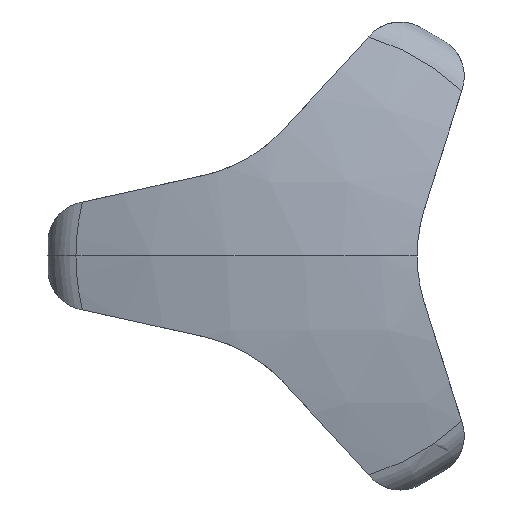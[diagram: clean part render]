
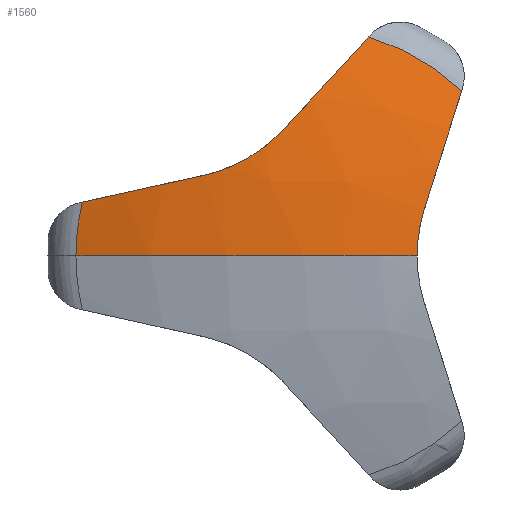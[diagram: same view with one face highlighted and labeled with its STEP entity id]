
A CAD part, left-side view. The second image highlights one B-rep face of the part: STEP entity #1560.
In plain terms, the highlighted spherical face has radius 72 mm.
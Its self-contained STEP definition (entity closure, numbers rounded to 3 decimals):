
#32 = ORIENTED_EDGE ( 'NONE', *, *, #1008, .T. ) ;
#35 = DIRECTION ( 'NONE',  ( 0., -0.676, 0.737 ) ) ;
#94 = CIRCLE ( 'NONE', #989, 72. ) ;
#98 = SPHERICAL_SURFACE ( 'NONE', #1119, 72. ) ;
#118 = DIRECTION ( 'NONE',  ( 1., 0., 0. ) ) ;
#133 = CARTESIAN_POINT ( 'NONE',  ( -29.155, -11., 0.385 ) ) ;
#148 = CARTESIAN_POINT ( 'NONE',  ( -29.133, 4.2, 10.346 ) ) ;
#149 = AXIS2_PLACEMENT_3D ( 'NONE', #847, #1391, #287 ) ;
#150 = ORIENTED_EDGE ( 'NONE', *, *, #1405, .T. ) ;
#155 = ORIENTED_EDGE ( 'NONE', *, *, #1568, .T. ) ;
#169 = CIRCLE ( 'NONE', #757, 22.235 ) ;
#191 = CARTESIAN_POINT ( 'NONE',  ( -28.901, 1.941, 12.383 ) ) ;
#213 = ORIENTED_EDGE ( 'NONE', *, *, #1118, .F. ) ;
#252 = CARTESIAN_POINT ( 'NONE',  ( -29.048, 8.275, 8.26 ) ) ;
#269 = EDGE_CURVE ( 'NONE', #913, #302, #275, .T. ) ;
#275 = CIRCLE ( 'NONE', #932, 22.235 ) ;
#287 = DIRECTION ( 'NONE',  ( 0., 0.301, -0.954 ) ) ;
#301 = AXIS2_PLACEMENT_3D ( 'NONE', #399, #764, #35 ) ;
#302 = VERTEX_POINT ( 'NONE', #1409 ) ;
#311 = DIRECTION ( 'NONE',  ( 0., 1., 0. ) ) ;
#331 = VERTEX_POINT ( 'NONE', #191 ) ;
#337 = DIRECTION ( 'NONE',  ( -1., 0., 0. ) ) ;
#348 = CARTESIAN_POINT ( 'NONE',  ( 42., 0., 0. ) ) ;
#350 = AXIS2_PLACEMENT_3D ( 'NONE', #793, #417, #1024 ) ;
#359 = DIRECTION ( 'NONE',  ( 0., 0., -1. ) ) ;
#371 = CARTESIAN_POINT ( 'NONE',  ( -29.128, -11.074, 1.532 ) ) ;
#388 = CARTESIAN_POINT ( 'NONE',  ( -29.112, 7.211, 8.674 ) ) ;
#399 = CARTESIAN_POINT ( 'NONE',  ( 42., 7.223, 6.619 ) ) ;
#406 = ORIENTED_EDGE ( 'NONE', *, *, #269, .F. ) ;
#417 = DIRECTION ( 'NONE',  ( 0., -0.216, -0.976 ) ) ;
#594 = ORIENTED_EDGE ( 'NONE', *, *, #1164, .F. ) ;
#604 = VERTEX_POINT ( 'NONE', #1497 ) ;
#617 = CARTESIAN_POINT ( 'NONE',  ( -29.155, -11., 0. ) ) ;
#623 = EDGE_CURVE ( 'NONE', #913, #331, #884, .T. ) ;
#631 = CARTESIAN_POINT ( 'NONE',  ( -29.149, 6.171, 9.156 ) ) ;
#638 = CARTESIAN_POINT ( 'NONE',  ( -26.481, -6.262, 21.335 ) ) ;
#647 = DIRECTION ( 'NONE',  ( 0., -1., 0. ) ) ;
#690 = DIRECTION ( 'NONE',  ( 0., 1., 0. ) ) ;
#732 = CIRCLE ( 'NONE', #149, 71.33 ) ;
#757 = AXIS2_PLACEMENT_3D ( 'NONE', #824, #118, #690 ) ;
#762 = CARTESIAN_POINT ( 'NONE',  ( -29.155, 4.829, 9.914 ) ) ;
#764 = DIRECTION ( 'NONE',  ( 0., -0.737, -0.676 ) ) ;
#780 = CIRCLE ( 'NONE', #988, 72. ) ;
#789 = EDGE_CURVE ( 'NONE', #331, #1315, #1077, .T. ) ;
#793 = CARTESIAN_POINT ( 'NONE',  ( 42., 2.12, 9.564 ) ) ;
#813 = CARTESIAN_POINT ( 'NONE',  ( 42., 0., 0. ) ) ;
#824 = CARTESIAN_POINT ( 'NONE',  ( -26.481, 0., 0. ) ) ;
#837 = ORIENTED_EDGE ( 'NONE', *, *, #1434, .T. ) ;
#847 = CARTESIAN_POINT ( 'NONE',  ( 42., -9.343, -2.946 ) ) ;
#855 = CARTESIAN_POINT ( 'NONE',  ( -28.901, -11.694, 4.511 ) ) ;
#867 = B_SPLINE_CURVE_WITH_KNOTS ( 'NONE', 3,
 ( #1209, #133, #1470, #371, #976, #1565, #1464, #855 ),
 .UNSPECIFIED., .F., .F.,
 ( 4, 2, 2, 4 ),
 ( 0.005, 0.006, 0.007, 0.009 ),
 .UNSPECIFIED. ) ;
#876 = DIRECTION ( 'NONE',  ( 1., 0., 0. ) ) ;
#884 = CIRCLE ( 'NONE', #301, 71.33 ) ;
#901 = CARTESIAN_POINT ( 'NONE',  ( -28.901, 9.753, 7.872 ) ) ;
#913 = VERTEX_POINT ( 'NONE', #638 ) ;
#926 = VERTEX_POINT ( 'NONE', #1500 ) ;
#932 = AXIS2_PLACEMENT_3D ( 'NONE', #1525, #876, #311 ) ;
#947 = CARTESIAN_POINT ( 'NONE',  ( -28.901, 1.941, 12.383 ) ) ;
#967 = VERTEX_POINT ( 'NONE', #1335 ) ;
#976 = CARTESIAN_POINT ( 'NONE',  ( -29.112, -11.117, 1.91 ) ) ;
#988 = AXIS2_PLACEMENT_3D ( 'NONE', #1214, #359, #337 ) ;
#989 = AXIS2_PLACEMENT_3D ( 'NONE', #813, #1132, #647 ) ;
#995 = VERTEX_POINT ( 'NONE', #1310 ) ;
#1008 = EDGE_CURVE ( 'NONE', #1315, #995, #1219, .T. ) ;
#1024 = DIRECTION ( 'NONE',  ( 0., -0.976, 0.216 ) ) ;
#1077 = B_SPLINE_CURVE_WITH_KNOTS ( 'NONE', 3,
 ( #947, #1316, #1582, #148, #762, #1495, #631, #1104, #388, #252, #1361, #1112 ),
 .UNSPECIFIED., .F., .F.,
 ( 4, 2, 2, 2, 2, 4 ),
 ( 0., 0.002, 0.005, 0.006, 0.007, 0.009 ),
 .UNSPECIFIED. ) ;
#1099 = EDGE_LOOP ( 'NONE', ( #594, #150, #837, #155, #406, #1510, #1529, #32, #213 ) ) ;
#1104 = CARTESIAN_POINT ( 'NONE',  ( -29.128, 6.861, 8.825 ) ) ;
#1112 = CARTESIAN_POINT ( 'NONE',  ( -28.901, 9.753, 7.872 ) ) ;
#1118 = EDGE_CURVE ( 'NONE', #604, #995, #169, .T. ) ;
#1119 = AXIS2_PLACEMENT_3D ( 'NONE', #348, #1328, #1256 ) ;
#1132 = DIRECTION ( 'NONE',  ( 0., 0., 1. ) ) ;
#1164 = EDGE_CURVE ( 'NONE', #926, #604, #780, .T. ) ;
#1196 = FACE_OUTER_BOUND ( 'NONE', #1099, .T. ) ;
#1209 = CARTESIAN_POINT ( 'NONE',  ( -29.155, -11., 0. ) ) ;
#1214 = CARTESIAN_POINT ( 'NONE',  ( 42., 0., 0. ) ) ;
#1219 = CIRCLE ( 'NONE', #350, 71.33 ) ;
#1256 = DIRECTION ( 'NONE',  ( 0., 1., 0. ) ) ;
#1261 = VERTEX_POINT ( 'NONE', #617 ) ;
#1310 = CARTESIAN_POINT ( 'NONE',  ( -26.481, 21.608, 5.244 ) ) ;
#1315 = VERTEX_POINT ( 'NONE', #901 ) ;
#1316 = CARTESIAN_POINT ( 'NONE',  ( -28.985, 2.459, 11.817 ) ) ;
#1328 = DIRECTION ( 'NONE',  ( 0., 0., 1. ) ) ;
#1335 = CARTESIAN_POINT ( 'NONE',  ( -28.901, -11.694, 4.511 ) ) ;
#1361 = CARTESIAN_POINT ( 'NONE',  ( -28.985, 9.004, 8.038 ) ) ;
#1391 = DIRECTION ( 'NONE',  ( 0., 0.954, 0.301 ) ) ;
#1405 = EDGE_CURVE ( 'NONE', #926, #1261, #94, .T. ) ;
#1409 = CARTESIAN_POINT ( 'NONE',  ( -26.481, -15.346, 16.091 ) ) ;
#1434 = EDGE_CURVE ( 'NONE', #1261, #967, #867, .T. ) ;
#1464 = CARTESIAN_POINT ( 'NONE',  ( -28.985, -11.464, 3.78 ) ) ;
#1470 = CARTESIAN_POINT ( 'NONE',  ( -29.149, -11.015, 0.77 ) ) ;
#1495 = CARTESIAN_POINT ( 'NONE',  ( -29.155, 5.829, 9.336 ) ) ;
#1497 = CARTESIAN_POINT ( 'NONE',  ( -26.481, 22.235, 0. ) ) ;
#1500 = CARTESIAN_POINT ( 'NONE',  ( -30., 0., 0. ) ) ;
#1510 = ORIENTED_EDGE ( 'NONE', *, *, #623, .T. ) ;
#1525 = CARTESIAN_POINT ( 'NONE',  ( -26.481, 0., 0. ) ) ;
#1529 = ORIENTED_EDGE ( 'NONE', *, *, #789, .T. ) ;
#1560 = ADVANCED_FACE ( 'NONE', ( #1196 ), #98, .T. ) ;
#1565 = CARTESIAN_POINT ( 'NONE',  ( -29.048, -11.291, 3.038 ) ) ;
#1568 = EDGE_CURVE ( 'NONE', #967, #302, #732, .T. ) ;
#1582 = CARTESIAN_POINT ( 'NONE',  ( -29.048, 3.015, 11.297 ) ) ;
